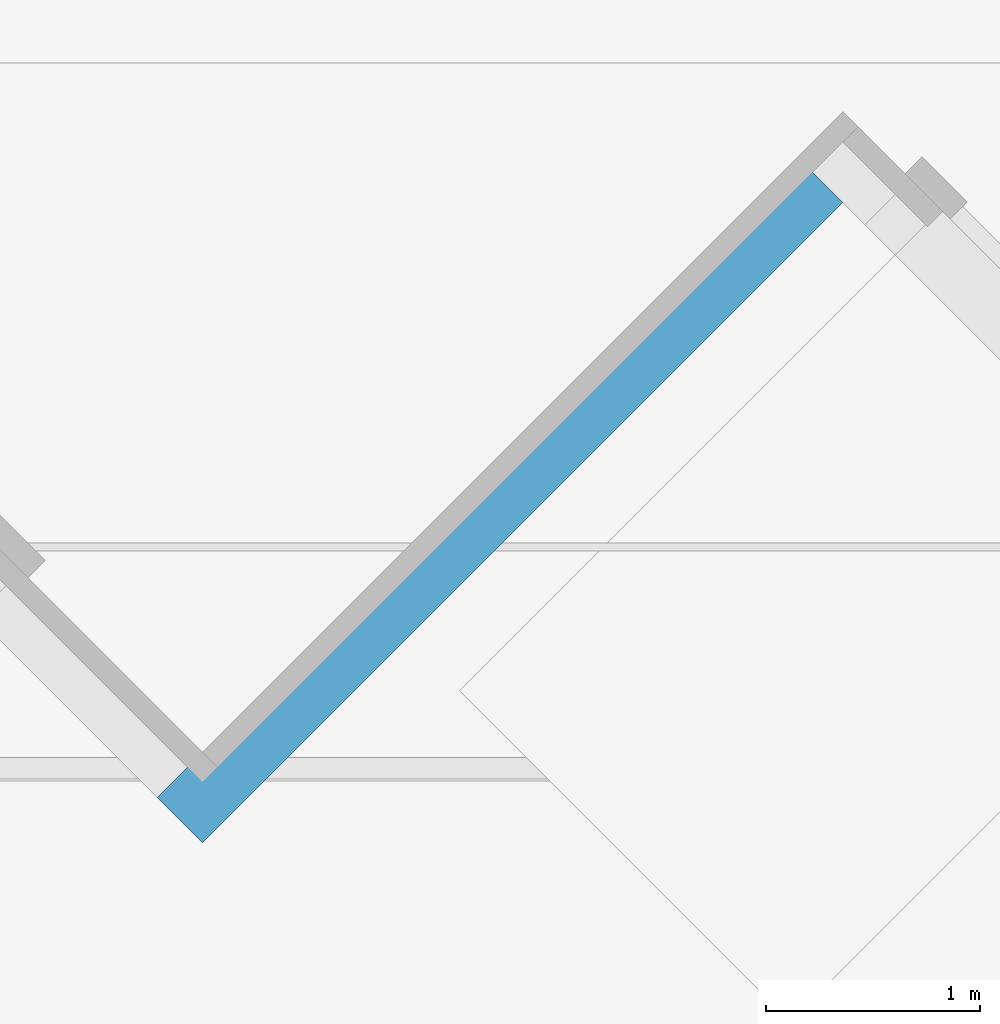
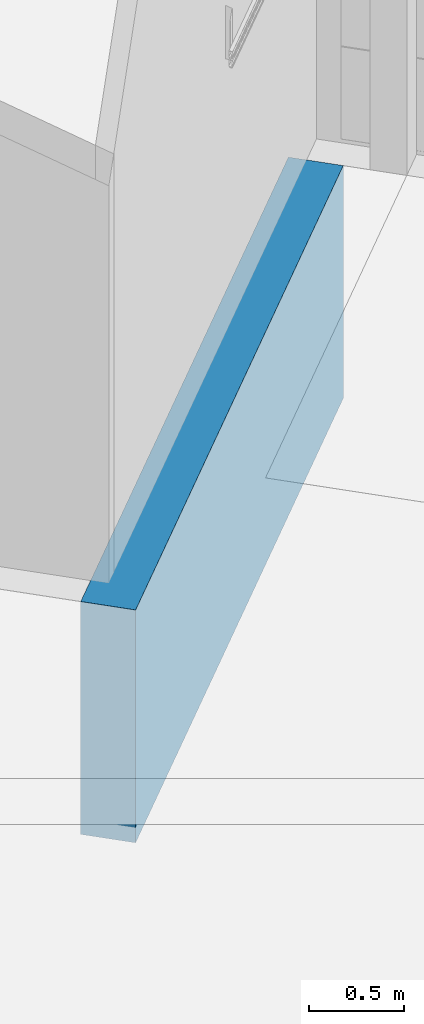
# One storey, part 31 of 64: 1 wall.
"""IFC2X3 building model written with IfcOpenShell, lengths in millimetres."""

from ifc_helpers import new_model, entity, si_unit, converted_unit, derived_unit, direction, frame, frame_2d, origin, place, context, subcontext, project, spatial, rectangle, extrude, material, layer, layer_set, layer_usage, type_object, element, save


model = new_model("IFC2X3")

# Units and contexts
model_context = context("Model", 3, precision=0.01, world=origin(), true_north=direction((4.05803320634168e-15, -1.0)))
body_context = subcontext(model_context, "Body", "Model", "MODEL_VIEW")
ifc_project = project(units=[si_unit("LENGTHUNIT", "METRE", prefix="MILLI"), si_unit("AREAUNIT", "SQUARE_METRE"), si_unit("VOLUMEUNIT", "CUBIC_METRE"), converted_unit("PLANEANGLEUNIT", "DEGREE", entity("IfcRatioMeasure", 0.0174532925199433), si_unit("PLANEANGLEUNIT", "RADIAN"), dimensions=[0, 0, 0, 0, 0, 0, 0]), si_unit("MASSUNIT", "GRAM", prefix="KILO"), derived_unit("MASSDENSITYUNIT", [(si_unit("MASSUNIT", "GRAM", prefix="KILO"), 1), (si_unit("LENGTHUNIT", "METRE"), -3)]), si_unit("TIMEUNIT", "SECOND"), si_unit("FREQUENCYUNIT", "HERTZ"), si_unit("THERMODYNAMICTEMPERATUREUNIT", "DEGREE_CELSIUS"), derived_unit("THERMALTRANSMITTANCEUNIT", [(si_unit("MASSUNIT", "GRAM", prefix="KILO"), 1), (si_unit("THERMODYNAMICTEMPERATUREUNIT", "KELVIN"), -1), (si_unit("TIMEUNIT", "SECOND"), -3)]), derived_unit("VOLUMETRICFLOWRATEUNIT", [(si_unit("LENGTHUNIT", "METRE"), 3), (si_unit("TIMEUNIT", "SECOND"), -1)]), si_unit("ELECTRICCURRENTUNIT", "AMPERE"), si_unit("ELECTRICVOLTAGEUNIT", "VOLT"), si_unit("POWERUNIT", "WATT"), si_unit("FORCEUNIT", "NEWTON", prefix="KILO"), si_unit("ILLUMINANCEUNIT", "LUX"), si_unit("LUMINOUSFLUXUNIT", "LUMEN"), si_unit("LUMINOUSINTENSITYUNIT", "CANDELA"), derived_unit("USERDEFINED", [(si_unit("MASSUNIT", "GRAM", prefix="KILO"), -1), (si_unit("LENGTHUNIT", "METRE"), -2), (si_unit("TIMEUNIT", "SECOND"), 3), (si_unit("LUMINOUSFLUXUNIT", "LUMEN"), 1)]), derived_unit("LINEARVELOCITYUNIT", [(si_unit("LENGTHUNIT", "METRE"), 1), (si_unit("TIMEUNIT", "SECOND"), -1)]), si_unit("PRESSUREUNIT", "PASCAL"), derived_unit("USERDEFINED", [(si_unit("LENGTHUNIT", "METRE"), -2), (si_unit("MASSUNIT", "GRAM", prefix="KILO"), 1), (si_unit("TIMEUNIT", "SECOND"), -2)])], contexts=[model_context])

# Site, building, storey
site_placement = place(None, frame((927466.849349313, 583801.882853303, 0.0), z_axis=(0.0, 0.0, 1.0), x_axis=(-1.0, 0.0, 0.0)))
site = spatial("IfcSite", under=ifc_project, at=site_placement, Name="Surface", CompositionType="ELEMENT")
building_placement = place(site_placement, origin())
building = spatial("IfcBuilding", under=site, at=building_placement, CompositionType="ELEMENT")
storey_placement = place(building_placement, frame((0.0, 0.0, 44170.0)))
storey = spatial("IfcBuildingStorey", under=building, at=storey_placement, Name="Ground FFL", CompositionType="ELEMENT", Elevation=44170.0)

# Wall
ifc_material = material(Name="conc bund")
ifc_layer = layer(ifc_material, 300.0)
ifc_layer_set = layer_set([ifc_layer], Name="Basic Wall:300 bund wall")
ifc_layer_usage = layer_usage(ifc_layer_set, "AXIS2", "POSITIVE", -150.0)
wall_type = type_object("IfcWallType", Name="Basic Wall:300 bund wall", PredefinedType="STANDARD", material=ifc_layer_set)
wall_placement = place(storey_placement, frame((-71965.0775553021, -33356.1242200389, -1500.0), z_axis=(0.0, 0.0, 1.0), x_axis=(0.70710678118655, 0.707106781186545, 0.0)))
element("IfcWallStandardCase", 1, at=wall_placement, inside=storey, type_object=wall_type, material=ifc_layer_usage, Name="Basic Wall:300 bund wall", ObjectType="Basic Wall:300 bund wall", context=body_context, shape_type="SweptSolid", body=[
    extrude(rectangle(XDim=4232.26267936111, YDim=299.999999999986, at=frame_2d((2116.13133968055, 4.68958205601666e-13), x_axis=(-1.0, 0.0))), origin(), (0.0, 0.0, 1.0), 1500.00000000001),
])

save(model, "model.ifc")
